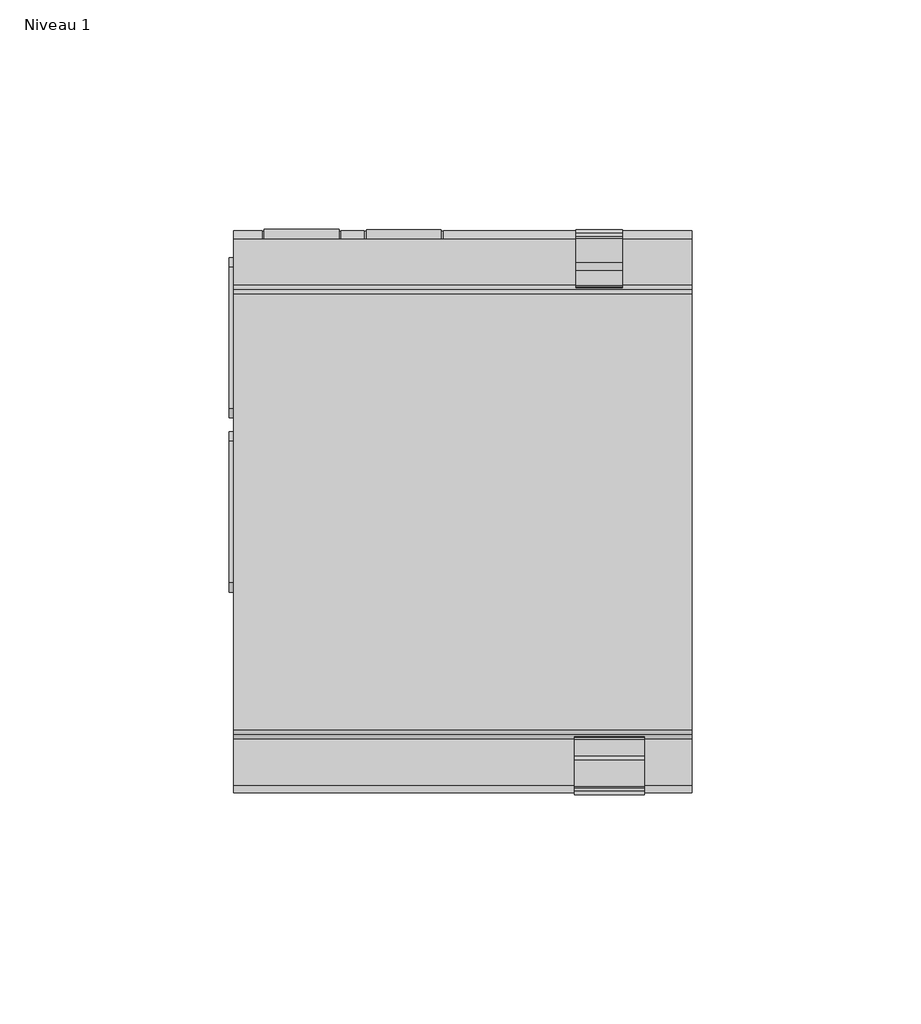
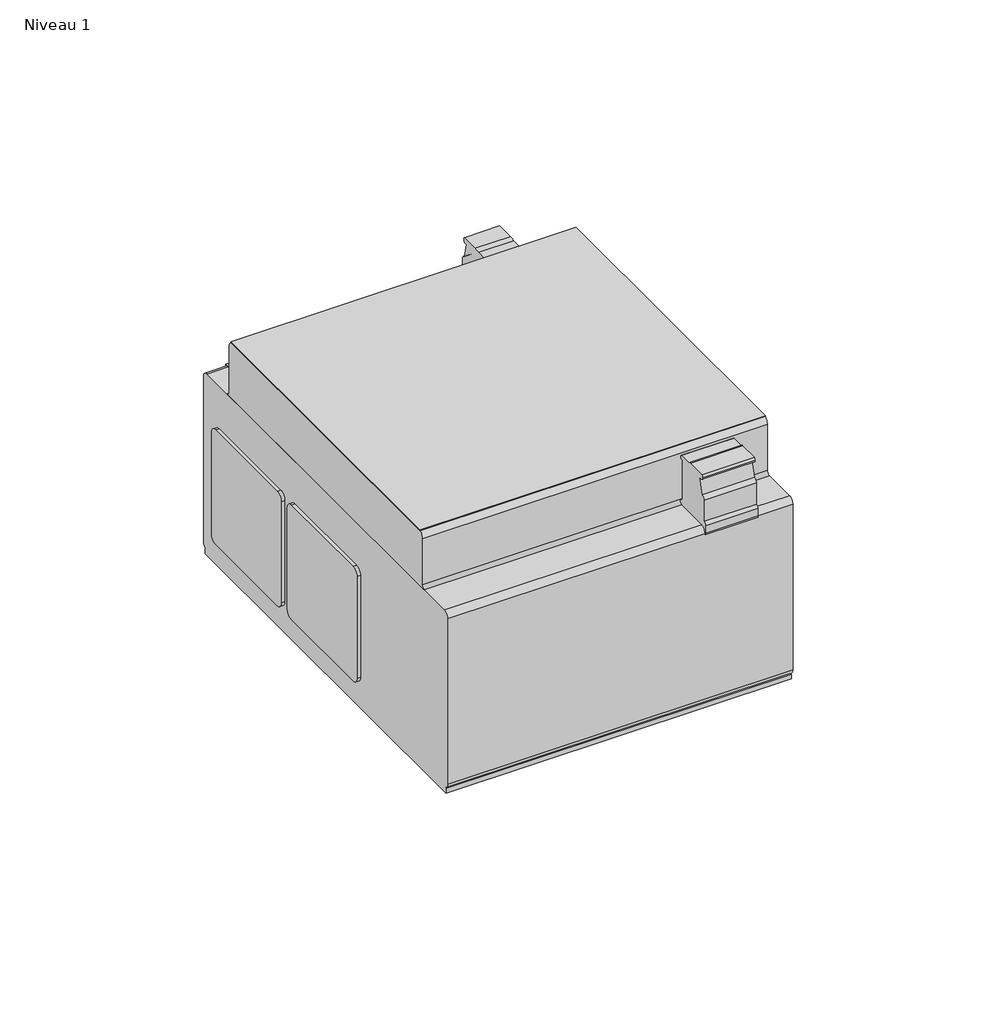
# One storey: 1 proxy.
"""IFC4 building model written with IfcOpenShell, lengths in millimetres."""

import ifcopenshell
import ifcopenshell.guid

model = None  # the IFC model being written
_history = None  # IfcOwnerHistory: only IFC2X3 demands one
_inside = {}  # id of a spatial element -> (the spatial element, [elements in it])
_under = {}  # id of a project, library or spatial element -> (it, [spatial elements below it])
_declared = {}  # id of a project -> (the project, [libraries it declares])
_typed = {}  # id of a type object -> (the type object, [elements of that type])
_made_of = {}  # id of a material, layer set ... -> (it, [elements and type objects made of it])


def new_model(schema):
    """Start an empty IFC model of exactly this schema.

    Asked for "IFC4X3", IfcOpenShell would pick the latest addendum, in which some entities
    have other attributes; the version numbers below select the first issue.
    IFC2X3 requires an IfcOwnerHistory on every rooted entity: one is made here for all.
    """
    global model, _history
    if schema == "IFC4X3":
        model = ifcopenshell.file(schema_version=(4, 3, 0, 0))
    else:
        model = ifcopenshell.file(schema=schema)
    _inside.clear()
    _under.clear()
    _declared.clear()
    _typed.clear()
    _made_of.clear()
    _history = None
    if model.schema == "IFC2X3":
        org = make("IfcOrganization", Name="unknown")
        user = make(
            "IfcPersonAndOrganization",
            ThePerson=make("IfcPerson", FamilyName="unknown"),
            TheOrganization=org,
        )
        app = make(
            "IfcApplication",
            ApplicationDeveloper=org,
            Version="unknown",
            ApplicationFullName="unknown",
            ApplicationIdentifier="unknown",
        )
        _history = make(
            "IfcOwnerHistory",
            OwningUser=user,
            OwningApplication=app,
            ChangeAction="ADDED",
            CreationDate=0,
        )
    return model


def make(cls, **values):
    """One entity of the class cls with the attributes given. An attribute that is None is left unset."""
    return model.create_entity(
        cls, **{name: value for name, value in values.items() if value is not None}
    )


def rooted(cls, **values):
    """An entity with a GlobalId (a new one), such as an element, a storey or a relation."""
    return make(cls, GlobalId=ifcopenshell.guid.new(), OwnerHistory=_history, **values)


def si_unit(unit_type, name, prefix=None):
    """IfcSIUnit, for example si_unit("LENGTHUNIT", "METRE", prefix="MILLI")."""
    return make("IfcSIUnit", UnitType=unit_type, Prefix=prefix, Name=name)


def assignment(units):
    """IfcUnitAssignment: the units of a project."""
    return None if units is None else make("IfcUnitAssignment", Units=units)


def point(xyz):
    """IfcCartesianPoint."""
    return None if xyz is None else make("IfcCartesianPoint", Coordinates=xyz)


def direction(xyz):
    """IfcDirection."""
    return None if xyz is None else make("IfcDirection", DirectionRatios=xyz)


def frame(location, z_axis=None, x_axis=None):
    """IfcAxis2Placement3D, a coordinate frame: its origin and axes. An axis left out is left unset."""
    return make(
        "IfcAxis2Placement3D",
        Location=point(location),
        Axis=direction(z_axis),
        RefDirection=direction(x_axis),
    )


def frame_2d(location, x_axis=None):
    """IfcAxis2Placement2D, a coordinate frame in the plane: its origin and x axis."""
    return make(
        "IfcAxis2Placement2D", Location=point(location), RefDirection=direction(x_axis)
    )


def origin():
    """The frame at (0, 0, 0) with its axes left unset."""
    return frame((0.0, 0.0, 0.0))


def place(relative_to, where):
    """IfcLocalPlacement: puts the frame where relative to a parent placement (None: the world)."""
    return make(
        "IfcLocalPlacement", PlacementRelTo=relative_to, RelativePlacement=where
    )


def context(
    kind, dimensions, precision=None, world=None, true_north=None, identifier=None
):
    """IfcGeometricRepresentationContext, for example the 3D "Model" context."""
    return make(
        "IfcGeometricRepresentationContext",
        ContextIdentifier=identifier,
        ContextType=kind,
        CoordinateSpaceDimension=dimensions,
        Precision=precision,
        WorldCoordinateSystem=world,
        TrueNorth=true_north,
    )


def project(units=None, contexts=None):
    """IfcProject with its units and contexts."""
    return rooted(
        "IfcProject",
        Name="project",
        RepresentationContexts=contexts,
        UnitsInContext=assignment(units),
    )


def spatial(cls, under=None, at=None, **own):
    """A site, building, storey or space (cls), placed at a placement, below another one or the project."""
    s = rooted(cls, ObjectPlacement=at, **own)
    if under is not None:
        _under.setdefault(under.id(), (under, []))[1].append(s)
    return s


def polyline(points):
    """IfcPolyline through the points."""
    return make("IfcPolyline", Points=[point(p) for p in points])


def circle_curve(where, radius):
    """IfcCircle in the frame where."""
    return make("IfcCircle", Position=where, Radius=radius)


def trimmed(basis, trim1, trim2, sense, master):
    """IfcTrimmedCurve: the piece of a basis curve between two trims."""
    return make(
        "IfcTrimmedCurve",
        BasisCurve=basis,
        Trim1=trim1,
        Trim2=trim2,
        SenseAgreement=sense,
        MasterRepresentation=master,
    )


def segment(curve, same_sense, transition):
    """IfcCompositeCurveSegment."""
    return make(
        "IfcCompositeCurveSegment",
        Transition=transition,
        SameSense=same_sense,
        ParentCurve=curve,
    )


def composite_curve(segments, self_intersect=None):
    """IfcCompositeCurve: segments joined end to end."""
    return make("IfcCompositeCurve", Segments=segments, SelfIntersect=self_intersect)


def outline(outer, holes=None, kind="AREA"):
    """IfcArbitraryClosedProfileDef: a profile drawn as a closed curve; with holes, ...WithVoids."""
    if holes is None:
        return make("IfcArbitraryClosedProfileDef", ProfileType=kind, OuterCurve=outer)
    return make(
        "IfcArbitraryProfileDefWithVoids",
        ProfileType=kind,
        OuterCurve=outer,
        InnerCurves=holes,
    )


def extrude(swept, where, along, depth):
    """IfcExtrudedAreaSolid: the profile swept, set in the frame where, extruded along a direction by depth."""
    return make(
        "IfcExtrudedAreaSolid",
        SweptArea=swept,
        Position=where,
        ExtrudedDirection=direction(along),
        Depth=depth,
    )


def shape(context_of_items, identifier, shape_type, items):
    """IfcShapeRepresentation: the items that make up one representation, for example the "Body"."""
    return make(
        "IfcShapeRepresentation",
        ContextOfItems=context_of_items,
        RepresentationIdentifier=identifier,
        RepresentationType=shape_type,
        Items=items,
    )


def source(mapping_origin, context_of_items, identifier, shape_type, items):
    """IfcRepresentationMap: a shape defined once, which mapped items show again and again."""
    return make(
        "IfcRepresentationMap",
        MappingOrigin=mapping_origin,
        MappedRepresentation=shape(context_of_items, identifier, shape_type, items),
    )


def transform(
    local_origin,
    x_axis=None,
    y_axis=None,
    z_axis=None,
    scale=None,
    scale2=None,
    scale3=None,
    uniform=True,
):
    """IfcCartesianTransformationOperator3D, or its non-uniform kind. x_axis, y_axis, z_axis: its Axis1, 2, 3."""
    if uniform:
        return make(
            "IfcCartesianTransformationOperator3D",
            Axis1=direction(x_axis),
            Axis2=direction(y_axis),
            LocalOrigin=point(local_origin),
            Scale=scale,
            Axis3=direction(z_axis),
        )
    return make(
        "IfcCartesianTransformationOperator3DnonUniform",
        Axis1=direction(x_axis),
        Axis2=direction(y_axis),
        LocalOrigin=point(local_origin),
        Scale=scale,
        Axis3=direction(z_axis),
        Scale2=scale2,
        Scale3=scale3,
    )


def mapped(mapping_source, mapping_target):
    """IfcMappedItem: shows the shape of a source again, moved by a transform."""
    return make(
        "IfcMappedItem", MappingSource=mapping_source, MappingTarget=mapping_target
    )


def made_of(thing, what):
    """Note that an element or type object is made of a material, layer set ...; save() writes the relation."""
    if what is not None:
        _made_of.setdefault(what.id(), (what, []))[1].append(thing)
    return thing


def element(
    cls,
    number,
    at=None,
    inside=None,
    cuts=None,
    type_object=None,
    material=None,
    context=None,
    identifier="Body",
    shape_type=None,
    held_by="IfcProductDefinitionShape",
    body=None,
    shapes=None,
    **own,
):
    """One element of the class cls, such as IfcWall. Its Tag is "e" and its number.

    at: its placement. inside: the storey or other place that contains it. cuts: it is an
    opening in that element (IfcRelVoidsElement). A single representation is given by context,
    identifier, shape_type and body (its items); several are given by shapes. held_by: the class
    of the entity that holds the representations. save() writes the other relations.
    """
    e = rooted(cls, Tag="e%d" % number, ObjectPlacement=at, **own)
    if body is not None:
        shapes = [shape(context, identifier, shape_type, body)]
    if shapes is not None:
        e.Representation = make(held_by, Representations=shapes)
    if inside is not None:
        _inside.setdefault(inside.id(), (inside, []))[1].append(e)
    if cuts is not None:
        rooted(
            "IfcRelVoidsElement", RelatingBuildingElement=cuts, RelatedOpeningElement=e
        )
    if type_object is not None:
        _typed.setdefault(type_object.id(), (type_object, []))[1].append(e)
    return made_of(e, material)


def aggregate(whole, parts):
    """IfcRelAggregates: a whole, such as a stair, and the parts it consists of."""
    return rooted("IfcRelAggregates", RelatingObject=whole, RelatedObjects=parts)


def save(model, path):
    """Write the relations noted so far, then the file.

    IfcRelAggregates (storeys below a building ...), IfcRelContainedInSpatialStructure (elements
    in a storey), IfcRelDefinesByType, IfcRelAssociatesMaterial and IfcRelDeclares: one each for
    every whole, place, type object, material and project.
    """
    for whole, parts in _under.values():
        aggregate(whole, parts)
    for where, things in _inside.values():
        rooted(
            "IfcRelContainedInSpatialStructure",
            RelatedElements=things,
            RelatingStructure=where,
        )
    for kind, things in _typed.values():
        rooted("IfcRelDefinesByType", RelatedObjects=things, RelatingType=kind)
    for what, things in _made_of.values():
        rooted("IfcRelAssociatesMaterial", RelatedObjects=things, RelatingMaterial=what)
    for by, libraries in _declared.values():
        rooted("IfcRelDeclares", RelatingContext=by, RelatedDefinitions=libraries)
    model.write(path)


def plane_surface(at):
    """IfcPlane: the flat surface through the origin of the frame at, square to its z axis."""
    return make("IfcPlane", Position=at)


def cylinder_surface(at, radius):
    """IfcCylindricalSurface: all points at the distance radius from the z axis of the frame at."""
    return make("IfcCylindricalSurface", Position=at, Radius=radius)


def advanced_brep(points, edges, surfaces, faces):
    """IfcAdvancedBrep: a solid bounded by faces that lie on surfaces and meet in shared edges.

    An edge is (start, end): straight between two places in points (the first is 0);
    or (start, end, curve); or (start, end, curve, False) where it runs against its curve.
    A face is (place in surfaces, loops), or (place, loops, False) where it looks against
    its surface's normal. A loop lists edges by number (the first is 1), with a minus sign
    where the edge is run from its end to its start. The first loop is the outer one.
    """
    corners = [point(p) for p in points]
    vertices = [make("IfcVertexPoint", VertexGeometry=c) for c in corners]
    made = []
    for start, end, *more in edges:
        made.append(
            make(
                "IfcEdgeCurve",
                EdgeStart=vertices[start],
                EdgeEnd=vertices[end],
                EdgeGeometry=more[0] if more else make("IfcPolyline", Points=[corners[start], corners[end]]),
                SameSense=more[1] if len(more) > 1 else True,
            )
        )
    hull = []
    for where, loops, *sense in faces:
        bounds = []
        for j, loop in enumerate(loops):
            ring = [make("IfcOrientedEdge", EdgeElement=made[abs(k) - 1], Orientation=k > 0) for k in loop]
            bounds.append(
                make(
                    "IfcFaceOuterBound" if j == 0 else "IfcFaceBound",
                    Bound=make("IfcEdgeLoop", EdgeList=ring),
                    Orientation=True,
                )
            )
        hull.append(make("IfcAdvancedFace", Bounds=bounds, FaceSurface=surfaces[where], SameSense=sense[0] if sense else True))
    return make("IfcAdvancedBrep", Outer=make("IfcClosedShell", CfsFaces=hull))


def electrical_equipment_9ed82ea9(model_context):
    return source(origin(), model_context, "Body", "SolidModel", [
        extrude(outline(polyline([(-50.051839, -39.1847523), (-50.051839, 55.8152477), (49.948161, 55.8152477), (49.948161, -39.1847523), (-50.051839, -39.1847523)])), frame((0.0, 0.0, 72.5), z_axis=(0.0, 0.0, 1.0), x_axis=(1.0, 0.0, 0.0)), (0.0, 0.0, 1.0), 0.25),
        extrude(outline(composite_curve([segment(trimmed(circle_curve(frame_2d((61.8152477, 40.5)), 2.0), [point((61.8152477, 42.5))], [point((63.8152477, 40.5))], False, "CARTESIAN"), True, "CONTINUOUS"), segment(polyline([(63.8152477, 40.5), (63.8152477, 9.5)]), True, "CONTINUOUS"), segment(trimmed(circle_curve(frame_2d((61.8152477, 9.5)), 2.0), [point((63.8152477, 9.5))], [point((61.8152477, 7.5))], False, "CARTESIAN"), True, "CONTINUOUS"), segment(polyline([(61.8152477, 7.5), (30.8152477, 7.5)]), True, "CONTINUOUS"), segment(trimmed(circle_curve(frame_2d((30.8152477, 9.5)), 2.0), [point((30.8152477, 7.5))], [point((28.8152477, 9.5))], False, "CARTESIAN"), True, "CONTINUOUS"), segment(polyline([(28.8152477, 9.5), (28.8152477, 40.5)]), True, "CONTINUOUS"), segment(trimmed(circle_curve(frame_2d((30.8152477, 40.5)), 2.0), [point((28.8152477, 40.5))], [point((30.8152477, 42.5))], False, "CARTESIAN"), True, "CONTINUOUS"), segment(polyline([(30.8152477, 42.5), (61.8152477, 42.5)]), True, "CONTINUOUS")], self_intersect=False)), frame((-51.051839, 0.0, 0.0), z_axis=(1.0, 0.0, 0.0), x_axis=(0.0, 1.0, 0.0)), (0.0, 0.0, 1.0), 1.0),
        extrude(outline(composite_curve([segment(trimmed(circle_curve(frame_2d((23.8152477, 40.5)), 2.0), [point((23.8152477, 42.5))], [point((25.8152477, 40.5))], False, "CARTESIAN"), True, "CONTINUOUS"), segment(polyline([(25.8152477, 40.5), (25.8152477, 9.5)]), True, "CONTINUOUS"), segment(trimmed(circle_curve(frame_2d((23.8152477, 9.5)), 2.0), [point((25.8152477, 9.5))], [point((23.8152477, 7.5))], False, "CARTESIAN"), True, "CONTINUOUS"), segment(polyline([(23.8152477, 7.5), (-7.2859387, 7.5)]), True, "CONTINUOUS"), segment(trimmed(circle_curve(frame_2d((-7.2859387, 9.3988137)), 1.8988137), [point((-7.2859387, 7.5))], [point((-9.1847523, 9.3988137))], False, "CARTESIAN"), True, "CONTINUOUS"), segment(polyline([(-9.1847523, 9.3988137), (-9.1847523, 40.6349698)]), True, "CONTINUOUS"), segment(trimmed(circle_curve(frame_2d((-7.174553, 40.4841787)), 2.0158471), [point((-9.1847523, 40.6349698))], [point((-7.1643536, 42.5))], False, "CARTESIAN"), True, "CONTINUOUS"), segment(polyline([(-7.1643536, 42.5), (23.8152477, 42.5)]), True, "CONTINUOUS")], self_intersect=False)), frame((-51.051839, 0.0, 0.0), z_axis=(1.0, 0.0, 0.0), x_axis=(0.0, 1.0, 0.0)), (0.0, 0.0, 1.0), 1.0),
        extrude(outline(composite_curve([segment(polyline([(62.6675701, 71.07), (68.052955, 71.07)]), True, "CONTINUOUS"), segment(trimmed(circle_curve(frame_2d((67.3611586, 70.3582814)), 0.992535), [point((68.052955, 71.07))], [point((67.9642656, 69.57))], False, "CARTESIAN"), True, "CONTINUOUS"), segment(polyline([(67.9642656, 69.57), (66.952955, 69.57), (68.1059554, 65.2669438)]), True, "CONTINUOUS"), segment(trimmed(circle_curve(frame_2d((67.5445429, 63.84)), 1.5334122), [point((68.1059554, 65.2669438))], [point((69.077955, 63.84))], False, "CARTESIAN"), True, "CONTINUOUS"), segment(polyline([(69.077955, 63.84), (69.077955, 57.6942542)]), True, "CONTINUOUS"), segment(trimmed(circle_curve(frame_2d((70.6160007, 58.4684748)), 1.7219181), [point((69.077955, 57.6942542))], [point((69.8808426, 56.9113799))], True, "CARTESIAN"), True, "CONTINUOUS"), segment(polyline([(69.8808426, 56.9113799), (69.8808426, 53.6358813), (68.372955, 53.37), (59.3563391, 53.37), (57.272955, 53.6053488), (57.272955, 56.6274333)]), True, "CONTINUOUS"), segment(trimmed(circle_curve(frame_2d((58.1441961, 56.4948595)), 0.88127), [point((57.272955, 56.6274333))], [point((58.247955, 57.37))], False, "CARTESIAN"), True, "CONTINUOUS"), segment(polyline([(58.247955, 57.37), (58.247955, 68.5084691)]), True, "CONTINUOUS"), segment(trimmed(circle_curve(frame_2d((57.6106003, 68.8574423)), 0.7266384), [point((58.247955, 68.5084691))], [point((57.752955, 69.57))], True, "CARTESIAN"), True, "CONTINUOUS"), segment(trimmed(circle_curve(frame_2d((58.212021, 70.1612762)), 0.7485647), [point((57.752955, 69.57))], [point((57.752955, 70.7525524))], False, "CARTESIAN"), True, "CONTINUOUS"), segment(polyline([(57.752955, 70.7525524), (61.0835378, 70.7525524)]), True, "CONTINUOUS"), segment(trimmed(circle_curve(frame_2d((62.6675701, 66.9591927)), 4.1108073), [point((61.0835378, 70.7525524))], [point((62.6675701, 71.07))], False, "CARTESIAN"), True, "CONTINUOUS")], self_intersect=False)), frame((24.658161, 0.0, 0.0), z_axis=(1.0, 0.0, 0.0), x_axis=(0.0, 1.0, 0.0)), (0.0, 0.0, 1.0), 10.2),
        extrude(outline(polyline([(41.4, -27.0445356), (54.9, -27.0445356), (54.9, -43.3445356), (41.4, -43.3445356), (41.4, -27.0445356)]), holes=[polyline([(53.7, -38.8445356), (53.7, -31.5445356), (51.04, -31.5445356), (51.04, -29.0445356), (43.75, -29.0445356), (43.75, -41.3445356), (51.04, -41.3445356), (51.04, -38.8445356), (53.7, -38.8445356)])]), frame((0.0, 54.1352477, 0.0), z_axis=(0.0, 1.0, 0.0), x_axis=(0.0, 0.0, 1.0)), (0.0, 0.0, 1.0), 15.88),
        extrude(outline(polyline([(41.4, -4.751839), (54.9, -4.751839), (54.9, -21.051839), (41.4, -21.051839), (41.4, -4.751839)]), holes=[polyline([(53.7, -16.551839), (53.7, -9.251839), (51.04, -9.251839), (51.04, -6.751839), (43.75, -6.751839), (43.75, -19.051839), (51.04, -19.051839), (51.04, -16.551839), (53.7, -16.551839)])]), frame((0.0, 54.2152477, 0.0), z_axis=(0.0, 1.0, 0.0), x_axis=(0.0, 0.0, 1.0)), (0.0, 0.0, 1.0), 15.72),
        extrude(outline(composite_curve([segment(polyline([(-12.6847523, -8.0), (-12.6847523, -0.5380934)]), True, "CONTINUOUS"), segment(trimmed(circle_curve(frame_2d((-12.1030066, -0.5672452)), 0.5824757), [point((-12.6847523, -0.5380934))], [point((-11.9706783, 0.0))], False, "CARTESIAN"), True, "CONTINUOUS"), segment(polyline([(-11.9706783, 0.0), (36.8152477, 0.0)]), True, "CONTINUOUS"), segment(trimmed(circle_curve(frame_2d((36.7213032, -0.6038595)), 0.6111235), [point((36.8152477, 0.0))], [point((37.3152477, -0.7477409))], False, "CARTESIAN"), True, "CONTINUOUS"), segment(polyline([(37.3152477, -0.7477409), (37.3152477, -5.1112181)]), True, "CONTINUOUS"), segment(trimmed(circle_curve(frame_2d((36.5037101, -5.1979414)), 0.8161582), [point((37.3152477, -5.1112181))], [point((36.9056035, -5.9082905))], False, "CARTESIAN"), True, "CONTINUOUS"), segment(polyline([(36.9056035, -5.9082905), (34.9083207, -7.0382909)]), True, "CONTINUOUS"), segment(trimmed(circle_curve(frame_2d((34.5016558, -6.6086943)), 0.5915485), [point((34.9083207, -7.0382909))], [point((33.948562, -6.8184961))], False, "CARTESIAN"), True, "CONTINUOUS"), segment(polyline([(33.948562, -6.8184961), (33.5217757, -6.0792807), (24.9605848, -7.9333399)]), True, "CONTINUOUS"), segment(trimmed(circle_curve(frame_2d((25.5758559, -7.5482896)), 0.7258252), [point((24.9605848, -7.9333399))], [point((25.2484939, -6.9004808))], False, "CARTESIAN"), True, "CONTINUOUS"), segment(polyline([(25.2484939, -6.9004808), (34.2511702, -4.950811)]), True, "CONTINUOUS"), segment(trimmed(circle_curve(frame_2d((34.2511702, -4.2254055)), 0.7254055), [point((34.2511702, -4.950811))], [point((34.2511702, -3.5))], True, "CARTESIAN"), True, "CONTINUOUS"), segment(polyline([(34.2511702, -3.5), (-6.0198924, -3.5)]), True, "CONTINUOUS"), segment(trimmed(circle_curve(frame_2d((-6.2198634, -4.2130718)), 0.7405807), [point((-6.0198924, -3.5))], [point((-6.8630383, -3.84594))], True, "CARTESIAN"), True, "CONTINUOUS"), segment(polyline([(-6.8630383, -3.84594), (-9.8337638, -8.0056936)]), True, "CONTINUOUS"), segment(trimmed(circle_curve(frame_2d((-10.5783113, -7.6921106)), 0.8078894), [point((-9.8337638, -8.0056936))], [point((-10.5783113, -8.5))], False, "CARTESIAN"), True, "CONTINUOUS"), segment(polyline([(-10.5783113, -8.5), (-11.9706783, -8.5)]), True, "CONTINUOUS"), segment(trimmed(circle_curve(frame_2d((-12.1526634, -8.0)), 0.5320889), [point((-11.9706783, -8.5))], [point((-12.6847523, -8.0))], False, "CARTESIAN"), True, "CONTINUOUS")], self_intersect=False)), frame((-40.051839, 0.0, 0.0), z_axis=(1.0, 0.0, 0.0), x_axis=(0.0, 1.0, 0.0)), (0.0, 0.0, 1.0), 80.0),
        extrude(outline(composite_curve([segment(polyline([(57.8152477, 55.6), (-41.1847523, 55.6)]), True, "CONTINUOUS"), segment(trimmed(circle_curve(frame_2d((-41.1847523, 56.6)), 1.0), [point((-41.1847523, 55.6))], [point((-40.1847523, 56.6))], True, "CARTESIAN"), True, "CONTINUOUS"), segment(polyline([(-40.1847523, 56.6), (-40.1847523, 70.6314162)]), True, "CONTINUOUS"), segment(trimmed(circle_curve(frame_2d((-38.368734, 70.6880139)), 1.8169001), [point((-40.1847523, 70.6314162))], [point((-38.5022719, 72.5))], False, "CARTESIAN"), True, "CONTINUOUS"), segment(polyline([(-38.5022719, 72.5), (55.0152477, 72.5)]), True, "CONTINUOUS"), segment(trimmed(circle_curve(frame_2d((55.0152477, 70.7)), 1.8), [point((55.0152477, 72.5))], [point((56.8152477, 70.7))], False, "CARTESIAN"), True, "CONTINUOUS"), segment(polyline([(56.8152477, 70.7), (56.8152477, 56.6)]), True, "CONTINUOUS"), segment(trimmed(circle_curve(frame_2d((57.8152477, 56.6)), 1.0), [point((56.8152477, 56.6))], [point((57.8152477, 55.6))], True, "CARTESIAN"), True, "CONTINUOUS")], self_intersect=False)), frame((-50.051839, 0.0, 0.0), z_axis=(1.0, 0.0, 0.0), x_axis=(0.0, 1.0, 0.0)), (0.0, 0.0, 1.0), 100.0),
        advanced_brep(
        [(-50.051839, 67.8152477, 55.6), (-50.051839, -51.2987985, 55.6), (24.403161, -51.2987985, 55.6), (24.403161, -40.7724597, 55.6), (39.5783602, -40.7724597, 55.6), (39.5783602, -51.2987985, 55.6), (49.948161, -51.2987985, 55.6), (49.948161, 67.8152477, 55.6), (34.858161, 67.8152477, 55.6), (34.858161, 57.272955, 55.6), (24.698161, 57.272955, 55.6), (24.698161, 67.8152477, 55.6), (-4.251839, 67.8152477, 55.6), (-21.551839, 67.8152477, 55.6), (-26.551839, 67.8152477, 55.6), (-43.851839, 67.8152477, 55.6), (49.948161, 68.8152477, 0.0), (49.948161, -52.1847523, 0.0), (-50.051839, -52.1847523, 0.0), (-50.051839, 68.8152477, 0.0), (49.948161, 69.6152477, 3.3), (-50.051839, 69.6152477, 3.3), (-50.051839, 69.6152477, 53.9367188), (-43.851839, 69.6152477, 53.9367188), (-43.851839, 69.6152477, 40.5), (-26.551839, 69.6152477, 40.5), (-26.551839, 69.6152477, 53.9367188), (-21.551839, 69.6152477, 53.9367188), (-21.551839, 69.6152477, 40.5), (-4.251839, 69.6152477, 40.5), (-4.251839, 69.6152477, 53.9367188), (24.698161, 69.6152477, 53.9367188), (24.698161, 69.6152477, 53.6053488), (34.858161, 69.6152477, 53.6053488), (34.858161, 69.6152477, 53.9367188), (49.948161, 69.6152477, 53.9367188), (-50.051839, -52.1847523, 1.5), (-50.051839, -51.1847523, 1.5), (-50.051839, -52.9847523, 3.3), (-50.051839, -52.9847523, 53.9140462), (-50.051839, 67.8152477, 1.5), (-50.051839, 68.8152477, 1.5), (49.948161, -52.9847523, 3.3), (49.948161, -52.9847523, 53.9140462), (39.5783602, -52.9847523, 53.9140462), (39.5783602, -52.9847523, 53.575975), (24.403161, -52.9847523, 53.5763924), (24.403161, -52.9847523, 53.9140462), (49.948161, 68.8152477, 1.5), (49.948161, 67.8152477, 1.5), (49.948161, -51.1847523, 1.5), (49.948161, -52.1847523, 1.5), (-4.251839, 67.8152477, 40.5), (-21.551839, 67.8152477, 40.5), (-43.851839, 67.8152477, 40.5), (-26.551839, 67.8152477, 40.5), (34.858161, 57.272955, 53.6053488), (24.698161, 57.272955, 53.6053488), (39.5783602, -44.9511161, 70.77), (39.5783602, -45.7299449, 71.1), (39.5783602, -51.5524597, 71.1), (39.5783602, -51.8524597, 70.3184733), (39.5783602, -51.3858777, 69.6), (39.5783602, -50.4524597, 69.6), (39.5783602, -51.6790361, 65.0223543), (39.5783602, -52.5774597, 63.9565594), (39.5783602, -52.5774597, 57.4), (39.5783602, -53.3724597, 56.605), (39.5783602, -53.3724597, 54.2548177), (39.5783602, -40.7724597, 56.8638943), (39.5783602, -41.7474597, 57.4), (39.5783602, -41.7474597, 69.6), (39.5783602, -40.9560165, 69.9580051), (39.5783602, -41.2921575, 70.77), (24.403161, -44.9511161, 70.77), (24.403161, -41.2921575, 70.77), (24.403161, -40.9560165, 69.9580051), (24.403161, -41.7474597, 69.6), (24.403161, -41.7474597, 57.4), (24.403161, -40.7724597, 56.8638943), (24.403161, -53.3724597, 54.2548177), (24.403161, -53.3724597, 56.605), (24.403161, -52.5774597, 57.4), (24.403161, -52.5774597, 63.9565594), (24.403161, -51.6790361, 65.0223543), (24.403161, -50.4524597, 69.6), (24.403161, -51.3858777, 69.6), (24.403161, -51.8524597, 70.3184733), (24.403161, -51.5524597, 71.1), (24.403161, -45.7299449, 71.1)],
        [
            (0, 1),
            (1, 2),
            (2, 3),
            (3, 4),
            (4, 5),
            (5, 6),
            (6, 7),
            (7, 8),
            (8, 9),
            (9, 10),
            (10, 11),
            (11, 12),
            (12, 13),
            (13, 14),
            (14, 15),
            (15, 0),
            (16, 17),
            (17, 18),
            (18, 19),
            (19, 16),
            (20, 21),
            (21, 22),
            (22, 23),
            (23, 24),
            (24, 25),
            (25, 26),
            (26, 27),
            (27, 28),
            (28, 29),
            (29, 30),
            (30, 31),
            (31, 32),
            (32, 33),
            (33, 34),
            (34, 35),
            (35, 20),
            (18, 36),
            (36, 37),
            (37, 38, circle_curve(frame((-50.051839, -51.1847523, 3.3), z_axis=(-1.0, 0.0, 0.0), x_axis=(0.0, 1.0, 0.0)), 1.8)),
            (38, 39),
            (39, 1, circle_curve(frame((-50.051839, -51.2987985, 53.9140462), z_axis=(-1.0, 0.0, 0.0), x_axis=(0.0, 1.0, 0.0)), 1.6859538)),
            (0, 22, circle_curve(frame((-50.051839, 67.8152477, 53.794381), z_axis=(-1.0, 0.0, 0.0), x_axis=(0.0, 1.0, 0.0)), 1.805619)),
            (21, 40, circle_curve(frame((-50.051839, 67.8152477, 3.3), z_axis=(-1.0, 0.0, 0.0), x_axis=(0.0, 1.0, 0.0)), 1.8)),
            (40, 41),
            (41, 19),
            (38, 42),
            (42, 43),
            (43, 44),
            (44, 45),
            (45, 46),
            (46, 47),
            (47, 39),
            (16, 48),
            (48, 49),
            (49, 20, circle_curve(frame((49.948161, 67.8152477, 3.3), z_axis=(1.0, 0.0, 0.0), x_axis=(0.0, 1.0, 0.0)), 1.8)),
            (35, 7, circle_curve(frame((49.948161, 67.8152477, 53.794381), z_axis=(1.0, 0.0, 0.0), x_axis=(0.0, 1.0, 0.0)), 1.805619)),
            (6, 43, circle_curve(frame((49.948161, -51.2987985, 53.9140462), z_axis=(1.0, 0.0, 0.0), x_axis=(0.0, 1.0, 0.0)), 1.6859538)),
            (42, 50, circle_curve(frame((49.948161, -51.1847523, 3.3), z_axis=(1.0, 0.0, 0.0), x_axis=(0.0, 1.0, 0.0)), 1.8)),
            (50, 51),
            (51, 17),
            (47, 2, circle_curve(frame((24.403161, -51.2987985, 53.9140462), z_axis=(-1.0, 0.0, 0.0), x_axis=(0.0, 1.0, 0.0)), 1.6859538)),
            (5, 44, circle_curve(frame((39.5783602, -51.2987985, 53.9140462), z_axis=(1.0, 0.0, 0.0), x_axis=(0.0, 1.0, 0.0)), 1.6859538)),
            (37, 50),
            (36, 51),
            (41, 48),
            (40, 49),
            (13, 27, circle_curve(frame((-21.551839, 67.8152477, 53.794381), z_axis=(-1.0, 0.0, 0.0), x_axis=(0.0, 1.0, 0.0)), 1.805619)),
            (26, 14, circle_curve(frame((-26.551839, 67.8152477, 53.794381), z_axis=(1.0, 0.0, 0.0), x_axis=(0.0, 1.0, 0.0)), 1.805619)),
            (15, 23, circle_curve(frame((-43.851839, 67.8152477, 53.794381), z_axis=(-1.0, 0.0, 0.0), x_axis=(0.0, 1.0, 0.0)), 1.805619)),
            (34, 8, circle_curve(frame((34.858161, 67.8152477, 53.794381), z_axis=(1.0, 0.0, 0.0), x_axis=(0.0, 1.0, 0.0)), 1.805619)),
            (30, 12, circle_curve(frame((-4.251839, 67.8152477, 53.794381), z_axis=(1.0, 0.0, 0.0), x_axis=(0.0, 1.0, 0.0)), 1.805619)),
            (11, 31, circle_curve(frame((24.698161, 67.8152477, 53.794381), z_axis=(-1.0, 0.0, 0.0), x_axis=(0.0, 1.0, 0.0)), 1.805619)),
            (12, 52),
            (52, 53),
            (53, 13),
            (54, 15),
            (14, 55),
            (55, 54),
            (53, 28),
            (52, 29),
            (55, 25),
            (24, 54),
            (56, 57),
            (57, 10),
            (9, 56),
            (57, 32),
            (56, 33),
            (58, 59, circle_curve(frame((39.5783602, -45.7299449, 70.0159481), z_axis=(1.0, 0.0, 0.0), x_axis=(0.0, 1.0, 0.0)), 1.0840519)),
            (59, 60),
            (60, 61, circle_curve(frame((39.5783602, -51.04204, 70.4557253), z_axis=(1.0, 0.0, 0.0), x_axis=(0.0, 1.0, 0.0)), 0.82196)),
            (61, 62, circle_curve(frame((39.5783602, -51.1857449, 70.2407053), z_axis=(1.0, 0.0, 0.0), x_axis=(0.0, 1.0, 0.0)), 0.671235)),
            (62, 63),
            (63, 64),
            (64, 65, circle_curve(frame((39.5783602, -51.4960746, 63.9565594), z_axis=(1.0, 0.0, 0.0), x_axis=(0.0, 1.0, 0.0)), 1.0813851)),
            (65, 66),
            (66, 67, circle_curve(frame((39.5783602, -52.5774597, 56.605), z_axis=(1.0, 0.0, 0.0), x_axis=(0.0, 1.0, 0.0)), 0.795)),
            (67, 68),
            (68, 45, circle_curve(frame((39.5783602, -52.9062927, 54.071227), z_axis=(1.0, 0.0, 0.0), x_axis=(0.0, 1.0, 0.0)), 0.5010162)),
            (4, 69),
            (69, 70, circle_curve(frame((39.5783602, -41.5437437, 56.6158374), z_axis=(1.0, 0.0, 0.0), x_axis=(0.0, 1.0, 0.0)), 0.8101921)),
            (70, 71),
            (71, 72, circle_curve(frame((39.5783602, -41.5529456, 70.2238127), z_axis=(1.0, 0.0, 0.0), x_axis=(0.0, 1.0, 0.0)), 0.6534355)),
            (72, 73, circle_curve(frame((39.5783602, -41.7191878, 70.1176491), z_axis=(1.0, 0.0, 0.0), x_axis=(0.0, 1.0, 0.0)), 0.7796901)),
            (73, 58),
            (74, 75),
            (75, 76, circle_curve(frame((24.403161, -41.7191878, 70.1176491), z_axis=(-1.0, 0.0, 0.0), x_axis=(0.0, 1.0, 0.0)), 0.7796901)),
            (76, 77, circle_curve(frame((24.403161, -41.5529456, 70.2238127), z_axis=(-1.0, 0.0, 0.0), x_axis=(0.0, 1.0, 0.0)), 0.6534355)),
            (77, 78),
            (78, 79, circle_curve(frame((24.403161, -41.5437437, 56.6158374), z_axis=(-1.0, 0.0, 0.0), x_axis=(0.0, 1.0, 0.0)), 0.8101921)),
            (79, 3),
            (46, 80, circle_curve(frame((24.403161, -52.9062927, 54.071227), z_axis=(-1.0, 0.0, 0.0), x_axis=(0.0, 1.0, 0.0)), 0.5010162)),
            (80, 81),
            (81, 82, circle_curve(frame((24.403161, -52.5774597, 56.605), z_axis=(-1.0, 0.0, 0.0), x_axis=(0.0, 1.0, 0.0)), 0.795)),
            (82, 83),
            (83, 84, circle_curve(frame((24.403161, -51.4960746, 63.9565594), z_axis=(-1.0, 0.0, 0.0), x_axis=(0.0, 1.0, 0.0)), 1.0813851)),
            (84, 85),
            (85, 86),
            (86, 87, circle_curve(frame((24.403161, -51.1857449, 70.2407053), z_axis=(-1.0, 0.0, 0.0), x_axis=(0.0, 1.0, 0.0)), 0.671235)),
            (87, 88, circle_curve(frame((24.403161, -51.04204, 70.4557253), z_axis=(-1.0, 0.0, 0.0), x_axis=(0.0, 1.0, 0.0)), 0.82196)),
            (88, 89),
            (89, 74, circle_curve(frame((24.403161, -45.7299449, 70.0159481), z_axis=(-1.0, 0.0, 0.0), x_axis=(0.0, 1.0, 0.0)), 1.0840519)),
            (58, 74),
            (89, 59),
            (88, 60),
            (87, 61),
            (86, 62),
            (85, 63),
            (84, 64),
            (83, 65),
            (82, 66),
            (81, 67),
            (80, 68),
            (79, 69),
            (78, 70),
            (77, 71),
            (76, 72),
            (75, 73),
        ],
        [
            plane_surface(frame((-50.051839, 69.6152477, 55.6), z_axis=(0.0, 0.0, 1.0), x_axis=(-1.0, 0.0, 0.0))),
            plane_surface(frame((-50.051839, 69.6152477, 0.0), z_axis=(0.0, 0.0, -1.0), x_axis=(1.0, 0.0, 0.0))),
            plane_surface(frame((49.948161, 69.6152477, 55.6), z_axis=(0.0, 1.0, 0.0), x_axis=(0.0, 0.0, -1.0))),
            plane_surface(frame((-50.051839, 69.6152477, 55.6), z_axis=(-1.0, 0.0, 0.0), x_axis=(0.0, 0.0, -1.0))),
            plane_surface(frame((-50.051839, -52.9847523, 55.6), z_axis=(0.0, -1.0, 0.0), x_axis=(0.0, 0.0, -1.0))),
            plane_surface(frame((49.948161, -52.9847523, 55.6), z_axis=(1.0, 0.0, 0.0), x_axis=(0.0, 0.0, -1.0))),
            cylinder_surface(frame((49.948161, -51.2987985, 53.9140462), z_axis=(1.0, 0.0, 0.0), x_axis=(0.0, 1.0, 0.0)), 1.6859538),
            cylinder_surface(frame((49.948161, -51.1847523, 3.3), z_axis=(1.0, 0.0, 0.0), x_axis=(0.0, 1.0, 0.0)), 1.8),
            plane_surface(frame((-50.051839, -51.1847523, 1.5), z_axis=(0.0, 0.0, 1.0), x_axis=(1.0, 0.0, 0.0))),
            plane_surface(frame((-50.051839, -52.1847523, 1.5), z_axis=(0.0, -1.0, 0.0), x_axis=(1.0, 0.0, 0.0))),
            plane_surface(frame((-50.051839, 68.8152477, 0.0), z_axis=(0.0, 1.0, 0.0), x_axis=(1.0, 0.0, 0.0))),
            plane_surface(frame((-50.051839, 68.8152477, 1.5), z_axis=(0.0, 0.0, 1.0), x_axis=(1.0, 0.0, 0.0))),
            cylinder_surface(frame((49.948161, 67.8152477, 3.3), z_axis=(1.0, 0.0, 0.0), x_axis=(0.0, 1.0, 0.0)), 1.8),
            cylinder_surface(frame((49.948161, 67.8152477, 53.794381), z_axis=(1.0, 0.0, 0.0), x_axis=(0.0, 1.0, 0.0)), 1.805619),
            plane_surface(frame((-21.551839, 67.8152477, 55.6), z_axis=(0.0, 1.0, 0.0), x_axis=(0.0, 0.0, -1.0))),
            plane_surface(frame((-21.551839, 67.8152477, 55.6), z_axis=(1.0, 0.0, 0.0), x_axis=(0.0, 1.0, 0.0))),
            plane_surface(frame((-21.551839, 67.8152477, 40.5), z_axis=(0.0, 0.0, 1.0), x_axis=(0.0, 1.0, 0.0))),
            plane_surface(frame((-4.251839, 67.8152477, 40.5), z_axis=(-1.0, 0.0, 0.0), x_axis=(0.0, 1.0, 0.0))),
            plane_surface(frame((-43.851839, 67.8152477, 40.5), z_axis=(0.0, 0.0, 1.0), x_axis=(0.0, 1.0, 0.0))),
            plane_surface(frame((-26.551839, 67.8152477, 40.5), z_axis=(-1.0, 0.0, 0.0), x_axis=(0.0, 1.0, 0.0))),
            plane_surface(frame((-43.851839, 67.8152477, 55.6), z_axis=(1.0, 0.0, 0.0), x_axis=(0.0, 1.0, 0.0))),
            plane_surface(frame((24.698161, 57.272955, 56.6), z_axis=(0.0, 1.0, 0.0), x_axis=(0.0, 0.0, -1.0))),
            plane_surface(frame((24.698161, 57.272955, 56.6), z_axis=(1.0, 0.0, 0.0), x_axis=(0.0, 1.0, 0.0))),
            plane_surface(frame((24.698161, 57.272955, 53.6053488), z_axis=(0.0, 0.0, 1.0), x_axis=(0.0, 1.0, 0.0))),
            plane_surface(frame((34.858161, 57.272955, 53.6053488), z_axis=(-1.0, 0.0, 0.0), x_axis=(0.0, 1.0, 0.0))),
            plane_surface(frame((39.5783602, -44.645893, 70.0159481), z_axis=(1.0, 0.0, 0.0), x_axis=(0.0, 0.0, 1.0))),
            plane_surface(frame((24.403161, -44.645893, 70.0159481), z_axis=(-1.0, 0.0, 0.0), x_axis=(0.0, 0.0, -1.0))),
            cylinder_surface(frame((24.403161, -45.7299449, 70.0159481), z_axis=(1.0, 0.0, 0.0), x_axis=(0.0, 1.0, 0.0)), 1.0840519),
            plane_surface(frame((39.5783602, -45.7299449, 71.1), z_axis=(0.0, 0.0, 1.0), x_axis=(-1.0, 0.0, 0.0))),
            cylinder_surface(frame((24.403161, -51.04204, 70.4557253), z_axis=(1.0, 0.0, 0.0), x_axis=(0.0, 1.0, 0.0)), 0.82196),
            cylinder_surface(frame((24.403161, -51.1857449, 70.2407053), z_axis=(1.0, 0.0, 0.0), x_axis=(0.0, 1.0, 0.0)), 0.671235),
            plane_surface(frame((39.5783602, -51.3858777, 69.6), z_axis=(0.0, 0.0, -1.0), x_axis=(-1.0, 0.0, 0.0))),
            plane_surface(frame((39.5783602, -50.4524597, 69.6), z_axis=(0.0, -0.9659258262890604, 0.2588190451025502), x_axis=(-1.0, 0.0, 0.0))),
            cylinder_surface(frame((24.403161, -51.4960746, 63.9565594), z_axis=(1.0, 0.0, 0.0), x_axis=(0.0, 1.0, 0.0)), 1.0813851),
            plane_surface(frame((39.5783602, -52.5774597, 63.9565594), z_axis=(0.0, -1.0, 0.0), x_axis=(-1.0, 0.0, 0.0))),
            cylinder_surface(frame((24.403161, -52.5774597, 56.605), z_axis=(1.0, 0.0, 0.0), x_axis=(0.0, 1.0, 0.0)), 0.795),
            plane_surface(frame((39.5783602, -53.3724597, 56.605), z_axis=(0.0, -1.0, 0.0), x_axis=(-1.0, 0.0, 0.0))),
            cylinder_surface(frame((24.403161, -52.9062927, 54.071227), z_axis=(1.0, 0.0, 0.0), x_axis=(0.0, 1.0, 0.0)), 0.5010162),
            plane_surface(frame((39.5783602, -40.7724597, 54.4), z_axis=(0.0, 1.0, 0.0), x_axis=(-1.0, 0.0, 0.0))),
            cylinder_surface(frame((24.403161, -41.5437437, 56.6158374), z_axis=(1.0, 0.0, 0.0), x_axis=(0.0, 1.0, 0.0)), 0.8101921),
            plane_surface(frame((39.5783602, -41.7474597, 57.4), z_axis=(0.0, 1.0, 0.0), x_axis=(-1.0, 0.0, 0.0))),
            cylinder_surface(frame((24.403161, -41.5529456, 70.2238127), z_axis=(1.0, 0.0, 0.0), x_axis=(0.0, 1.0, 0.0)), 0.6534355),
            cylinder_surface(frame((24.403161, -41.7191878, 70.1176491), z_axis=(1.0, 0.0, 0.0), x_axis=(0.0, 1.0, 0.0)), 0.7796901),
            plane_surface(frame((39.5783602, -41.2921575, 70.77), z_axis=(0.0, 0.0, 1.0), x_axis=(-1.0, 0.0, 0.0))),
        ],
        [
            (0, [[1, 2, 3, 4, 5, 6, 7, 8, 9, 10, 11, 12, 13, 14, 15, 16]]),
            (1, [[17, 18, 19, 20]]),
            (2, [[21, 22, 23, 24, 25, 26, 27, 28, 29, 30, 31, 32, 33, 34, 35, 36]]),
            (3, [[-19, 37, 38, 39, 40, 41, -1, 42, -22, 43, 44, 45]]),
            (4, [[-40, 46, 47, 48, 49, 50, 51, 52]]),
            (5, [[-17, 53, 54, 55, -36, 56, -7, 57, -47, 58, 59, 60]]),
            (6, [[-41, -52, 61, -2]]),
            (6, [[-57, -6, 62, -48]]),
            (7, [[63, -58, -46, -39]]),
            (8, [[-63, -38, 64, -59]]),
            (9, [[-64, -37, -18, -60]]),
            (10, [[65, -53, -20, -45]]),
            (11, [[-65, -44, 66, -54]]),
            (12, [[-66, -43, -21, -55]]),
            (13, [[-14, 67, -27, 68]]),
            (13, [[-42, -16, 69, -23]]),
            (13, [[-56, -35, 70, -8]]),
            (13, [[71, -12, 72, -31]]),
            (14, [[73, 74, 75, -13]]),
            (14, [[76, -15, 77, 78]]),
            (15, [[-75, 79, -28, -67]]),
            (16, [[-74, 80, -29, -79]]),
            (17, [[-73, -71, -30, -80]]),
            (18, [[-78, 81, -25, 82]]),
            (19, [[-77, -68, -26, -81]]),
            (20, [[-76, -82, -24, -69]]),
            (21, [[83, 84, -10, 85]]),
            (22, [[86, -32, -72, -11, -84]]),
            (23, [[-83, 87, -33, -86]]),
            (24, [[-87, -85, -9, -70, -34]]),
            (25, [[88, 89, 90, 91, 92, 93, 94, 95, 96, 97, 98, -49, -62, -5, 99, 100, 101, 102, 103, 104]]),
            (26, [[105, 106, 107, 108, 109, 110, -3, -61, -51, 111, 112, 113, 114, 115, 116, 117, 118, 119, 120, 121]]),
            (27, [[-88, 122, -121, 123]]),
            (28, [[-89, -123, -120, 124]]),
            (29, [[-90, -124, -119, 125]]),
            (30, [[-91, -125, -118, 126]]),
            (31, [[-92, -126, -117, 127]]),
            (32, [[-93, -127, -116, 128]]),
            (33, [[-94, -128, -115, 129]]),
            (34, [[-95, -129, -114, 130]]),
            (35, [[-96, -130, -113, 131]]),
            (36, [[-97, -131, -112, 132]]),
            (37, [[-98, -132, -111, -50]]),
            (38, [[133, -99, -4, -110]]),
            (39, [[-100, -133, -109, 134]]),
            (40, [[-101, -134, -108, 135]]),
            (41, [[-102, -135, -107, 136]]),
            (42, [[-103, -136, -106, 137]]),
            (43, [[-104, -137, -105, -122]]),
        ],
    ),
    ])


model = new_model("IFC4")

# Units and contexts
model_context = context("Model", 3, world=origin())
ifc_project = project(units=[si_unit("LENGTHUNIT", "METRE", prefix="MILLI")], contexts=[model_context])

# Site, building, storey
site = spatial("IfcSite", under=ifc_project)
building = spatial("IfcBuilding", under=site)
storey = spatial("IfcBuildingStorey", under=building, Name="Niveau 1", Elevation=0.0)

# Proxy
placement = place(None, origin())
electrical_equipment_shape = electrical_equipment_9ed82ea9(model_context)
element("IfcBuildingElementProxy", 1, Name="SDC-M 24V 3G DIN2 RS : SDC-M 24V 3G DIN2 RS", ObjectType="SDC-M 24V 3G DIN2 RS : SDC-M 24V 3G DIN2 RS", at=placement, inside=storey, context=model_context, shape_type="MappedRepresentation", body=[
    mapped(electrical_equipment_shape, transform((-8285.0439962, 4040.871015, 0.0), x_axis=(1.0, 0.0, 0.0), y_axis=(0.0, 1.0, 0.0), z_axis=(0.0, 0.0, 1.0))),
])

save(model, "model.ifc")
